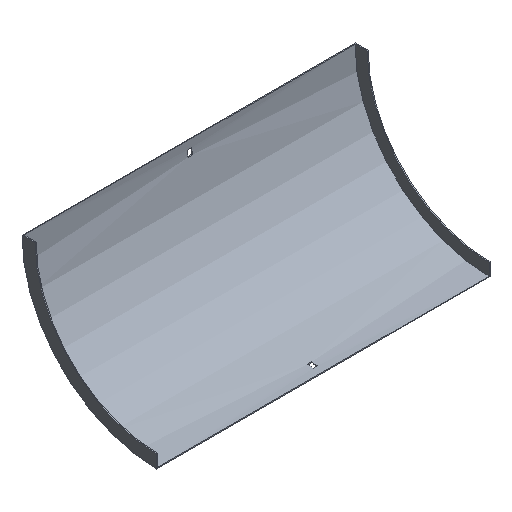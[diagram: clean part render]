
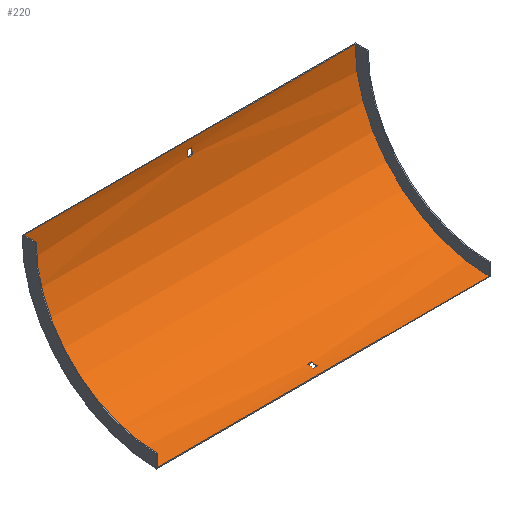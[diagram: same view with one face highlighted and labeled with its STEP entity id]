
A CAD part, isometric view. The second image highlights one B-rep face of the part: STEP entity #220.
In plain terms, the highlighted cylindrical face has radius 204 mm (diameter 408 mm), a partial arc.
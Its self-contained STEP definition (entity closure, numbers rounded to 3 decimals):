
#4 = ORIENTED_EDGE ( 'NONE', *, *, #606, .T. ) ;
#12 = CARTESIAN_POINT ( 'NONE',  ( 253.5, -205.5, 0. ) ) ;
#15 = DIRECTION ( 'NONE',  ( -1., 0., 0. ) ) ;
#17 = CARTESIAN_POINT ( 'NONE',  ( 252., -205.5, -204. ) ) ;
#18 = DIRECTION ( 'NONE',  ( 1., 0., 0. ) ) ;
#20 = EDGE_CURVE ( 'NONE', #356, #228, #417, .T. ) ;
#21 = CARTESIAN_POINT ( 'NONE',  ( 253.5, -193.5, -203.647 ) ) ;
#22 = ORIENTED_EDGE ( 'NONE', *, *, #20, .F. ) ;
#31 = CIRCLE ( 'NONE', #92, 204. ) ;
#40 = CARTESIAN_POINT ( 'NONE',  ( -252., -205.5, -204. ) ) ;
#53 = DIRECTION ( 'NONE',  ( 0., 0., 1. ) ) ;
#58 = VECTOR ( 'NONE', #74, 1000. ) ;
#61 = DIRECTION ( 'NONE',  ( 0., 0., 1. ) ) ;
#69 = VERTEX_POINT ( 'NONE', #93 ) ;
#70 = CARTESIAN_POINT ( 'NONE',  ( 252., -1.5, 0. ) ) ;
#74 = DIRECTION ( 'NONE',  ( 1., 0., 0. ) ) ;
#76 = DIRECTION ( 'NONE',  ( 0., 0., -1. ) ) ;
#89 = DIRECTION ( 'NONE',  ( -1., 0., 0. ) ) ;
#92 = AXIS2_PLACEMENT_3D ( 'NONE', #162, #383, #53 ) ;
#93 = CARTESIAN_POINT ( 'NONE',  ( 3.25, -184.5, -202.916 ) ) ;
#96 = LINE ( 'NONE', #287, #548 ) ;
#110 = EDGE_CURVE ( 'NONE', #304, #347, #96, .T. ) ;
#117 = CARTESIAN_POINT ( 'NONE',  ( 252., -205.5, 0. ) ) ;
#118 = ORIENTED_EDGE ( 'NONE', *, *, #110, .T. ) ;
#125 = VERTEX_POINT ( 'NONE', #413 ) ;
#132 = EDGE_CURVE ( 'NONE', #446, #347, #564, .T. ) ;
#136 = DIRECTION ( 'NONE',  ( -1., 0., 0. ) ) ;
#138 = DIRECTION ( 'NONE',  ( 1., 0., 0. ) ) ;
#162 = CARTESIAN_POINT ( 'NONE',  ( 3.25, -205.5, 0. ) ) ;
#164 = DIRECTION ( 'NONE',  ( -1., 0., 0. ) ) ;
#170 = EDGE_CURVE ( 'NONE', #531, #356, #314, .T. ) ;
#172 = EDGE_LOOP ( 'NONE', ( #391, #594, #178, #118 ) ) ;
#176 = CIRCLE ( 'NONE', #455, 204. ) ;
#177 = CARTESIAN_POINT ( 'NONE',  ( -3.25, -205.5, 0. ) ) ;
#178 = ORIENTED_EDGE ( 'NONE', *, *, #184, .T. ) ;
#184 = EDGE_CURVE ( 'NONE', #254, #304, #389, .T. ) ;
#188 = DIRECTION ( 'NONE',  ( 1., 0., 0. ) ) ;
#189 = AXIS2_PLACEMENT_3D ( 'NONE', #12, #164, #348 ) ;
#204 = CARTESIAN_POINT ( 'NONE',  ( 252., -205.5, -204. ) ) ;
#205 = ORIENTED_EDGE ( 'NONE', *, *, #306, .T. ) ;
#209 = DIRECTION ( 'NONE',  ( 0., 0., 1. ) ) ;
#214 = VECTOR ( 'NONE', #136, 1000. ) ;
#220 = ADVANCED_FACE ( 'NONE', ( #303, #580, #493 ), #530, .F. ) ;
#222 = VECTOR ( 'NONE', #237, 1000. ) ;
#227 = CARTESIAN_POINT ( 'NONE',  ( -3.25, -1.853, -12. ) ) ;
#228 = VERTEX_POINT ( 'NONE', #537 ) ;
#231 = CARTESIAN_POINT ( 'NONE',  ( 253.5, -1.853, -12. ) ) ;
#237 = DIRECTION ( 'NONE',  ( 1., 0., 0. ) ) ;
#242 = ORIENTED_EDGE ( 'NONE', *, *, #170, .F. ) ;
#254 = VERTEX_POINT ( 'NONE', #204 ) ;
#265 = CARTESIAN_POINT ( 'NONE',  ( 3.25, -1.853, -12. ) ) ;
#268 = ORIENTED_EDGE ( 'NONE', *, *, #384, .T. ) ;
#286 = LINE ( 'NONE', #231, #214 ) ;
#287 = CARTESIAN_POINT ( 'NONE',  ( 252., -1.5, 0. ) ) ;
#289 = AXIS2_PLACEMENT_3D ( 'NONE', #599, #188, #371 ) ;
#299 = VERTEX_POINT ( 'NONE', #587 ) ;
#303 = FACE_BOUND ( 'NONE', #400, .T. ) ;
#304 = VERTEX_POINT ( 'NONE', #70 ) ;
#306 = EDGE_CURVE ( 'NONE', #125, #69, #313, .T. ) ;
#310 = VERTEX_POINT ( 'NONE', #265 ) ;
#311 = VECTOR ( 'NONE', #591, 1000. ) ;
#312 = AXIS2_PLACEMENT_3D ( 'NONE', #368, #138, #604 ) ;
#313 = LINE ( 'NONE', #500, #58 ) ;
#314 = CIRCLE ( 'NONE', #593, 204. ) ;
#345 = EDGE_LOOP ( 'NONE', ( #268, #409, #205, #4 ) ) ;
#347 = VERTEX_POINT ( 'NONE', #459 ) ;
#348 = DIRECTION ( 'NONE',  ( 0., 0., 1. ) ) ;
#356 = VERTEX_POINT ( 'NONE', #364 ) ;
#362 = VECTOR ( 'NONE', #529, 1000. ) ;
#364 = CARTESIAN_POINT ( 'NONE',  ( -3.25, -2.584, -21. ) ) ;
#368 = CARTESIAN_POINT ( 'NONE',  ( 3.25, -205.5, 0. ) ) ;
#369 = EDGE_CURVE ( 'NONE', #506, #125, #176, .T. ) ;
#371 = DIRECTION ( 'NONE',  ( 0., 0., 1. ) ) ;
#376 = ORIENTED_EDGE ( 'NONE', *, *, #461, .F. ) ;
#383 = DIRECTION ( 'NONE',  ( -1., 0., 0. ) ) ;
#384 = EDGE_CURVE ( 'NONE', #299, #506, #498, .T. ) ;
#389 = CIRCLE ( 'NONE', #458, 204. ) ;
#391 = ORIENTED_EDGE ( 'NONE', *, *, #132, .F. ) ;
#400 = EDGE_LOOP ( 'NONE', ( #242, #376, #596, #22 ) ) ;
#409 = ORIENTED_EDGE ( 'NONE', *, *, #369, .T. ) ;
#413 = CARTESIAN_POINT ( 'NONE',  ( -3.25, -184.5, -202.916 ) ) ;
#417 = LINE ( 'NONE', #569, #222 ) ;
#446 = VERTEX_POINT ( 'NONE', #40 ) ;
#451 = DIRECTION ( 'NONE',  ( 1., 0., 0. ) ) ;
#455 = AXIS2_PLACEMENT_3D ( 'NONE', #177, #451, #76 ) ;
#456 = EDGE_CURVE ( 'NONE', #228, #310, #517, .T. ) ;
#458 = AXIS2_PLACEMENT_3D ( 'NONE', #117, #18, #209 ) ;
#459 = CARTESIAN_POINT ( 'NONE',  ( -252., -1.5, 0. ) ) ;
#461 = EDGE_CURVE ( 'NONE', #310, #531, #286, .T. ) ;
#483 = CARTESIAN_POINT ( 'NONE',  ( -3.25, -205.5, 0. ) ) ;
#493 = FACE_BOUND ( 'NONE', #345, .T. ) ;
#498 = LINE ( 'NONE', #21, #311 ) ;
#500 = CARTESIAN_POINT ( 'NONE',  ( 253.5, -184.5, -202.916 ) ) ;
#506 = VERTEX_POINT ( 'NONE', #598 ) ;
#517 = CIRCLE ( 'NONE', #312, 204. ) ;
#529 = DIRECTION ( 'NONE',  ( -1., 0., 0. ) ) ;
#530 = CYLINDRICAL_SURFACE ( 'NONE', #189, 204. ) ;
#531 = VERTEX_POINT ( 'NONE', #227 ) ;
#536 = LINE ( 'NONE', #17, #362 ) ;
#537 = CARTESIAN_POINT ( 'NONE',  ( 3.25, -2.584, -21. ) ) ;
#548 = VECTOR ( 'NONE', #89, 1000. ) ;
#549 = EDGE_CURVE ( 'NONE', #254, #446, #536, .T. ) ;
#564 = CIRCLE ( 'NONE', #289, 204. ) ;
#569 = CARTESIAN_POINT ( 'NONE',  ( 253.5, -2.584, -21. ) ) ;
#580 = FACE_OUTER_BOUND ( 'NONE', #172, .T. ) ;
#587 = CARTESIAN_POINT ( 'NONE',  ( 3.25, -193.5, -203.647 ) ) ;
#591 = DIRECTION ( 'NONE',  ( -1., 0., 0. ) ) ;
#593 = AXIS2_PLACEMENT_3D ( 'NONE', #483, #15, #61 ) ;
#594 = ORIENTED_EDGE ( 'NONE', *, *, #549, .F. ) ;
#596 = ORIENTED_EDGE ( 'NONE', *, *, #456, .F. ) ;
#598 = CARTESIAN_POINT ( 'NONE',  ( -3.25, -193.5, -203.647 ) ) ;
#599 = CARTESIAN_POINT ( 'NONE',  ( -252., -205.5, 0. ) ) ;
#604 = DIRECTION ( 'NONE',  ( 0., 0., -1. ) ) ;
#606 = EDGE_CURVE ( 'NONE', #69, #299, #31, .T. ) ;
